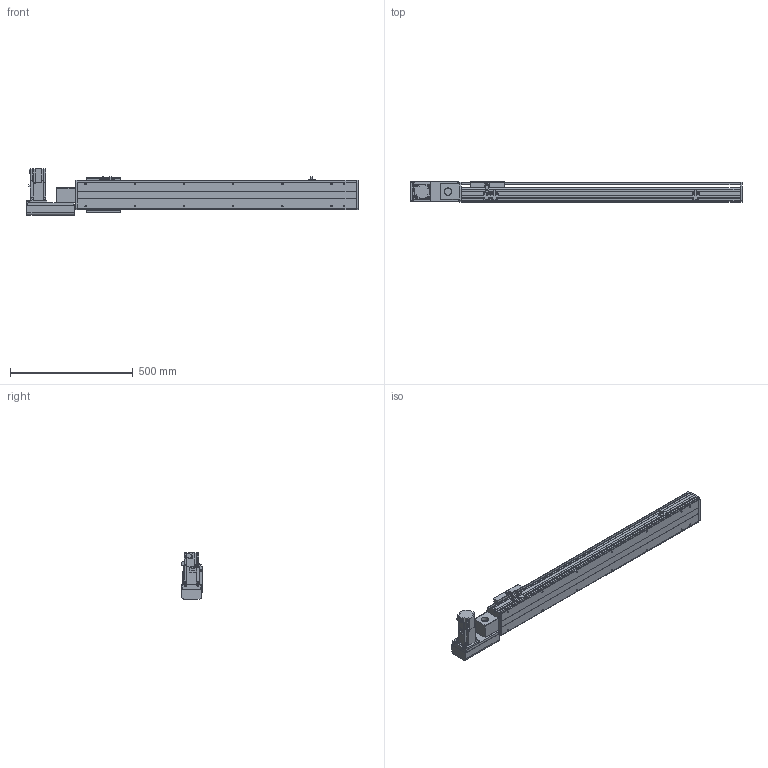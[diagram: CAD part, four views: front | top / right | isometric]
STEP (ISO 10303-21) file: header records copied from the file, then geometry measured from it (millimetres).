
FILE_DESCRIPTION(/* description */ ('STEP AP214'),/* implementation_level */ '2;1');
FILE_NAME(/* name */ 'PBS120-P40-S850-L-T40-C1-N(0)',/* time_stamp */ '2022-06-05T02:25:05+02:00',/* author */ ('License CC BY-ND 4.0'),/* organization */ ('CADENAS'),/* preprocessor_version */ 'ST-DEVELOPER v18.102',/* originating_system */ 'PARTsolutions',/* authorisation */ ' ');
FILE_SCHEMA (('AUTOMOTIVE_DESIGN {1 0 10303 214 3 1 1}'));
Length unit declared in the file: millimetre
Products named in the file (7): PBS120-P40-S850-L-T40-C1-N(0); PBS120_sensor; PBS120_plant; PBS120_sliser; T40-p1; PBS120T-L_motors; PBS120-S850()_body
Assembly tree (8 placements, depth 2):
  PBS120-P40-S850-L-T40-C1-N(0)
    PBS120_sensor  x3
    PBS120_plant
    PBS120_sliser
    T40-p1
    PBS120T-L_motors
    PBS120-S850()_body
Bounding box: 1351 x 83 x 189.7 mm (x, y, z)
Volume: 5472842.1 mm3; surface area: 1056178.9 mm2
Topology: 8 solids, 8 shells, 822 faces, 2146 edges, 1381 vertices
Faces by surface type: plane 547, cylinder 227, cone 46, torus 2
Full cylindrical faces by diameter (mm): 2.459 x6, 3.242 x4, 4 x2, 4.134 x4, 4.5 x10, 4.917 x18, 5.5 x11, 6 x2, 6.6 x1, 7 x2, 8.5 x4, 9 x4, 12 x1, 14 x1, 30 x2, 40 x1, 50 x2
Entity records: 21474 total; most frequent: DIRECTION 3716, CARTESIAN_POINT 3659, ORIENTED_EDGE 3490, EDGE_CURVE 1745, AXIS2_PLACEMENT_3D 1244, LINE 1228, VECTOR 1228, VERTEX_POINT 1187
